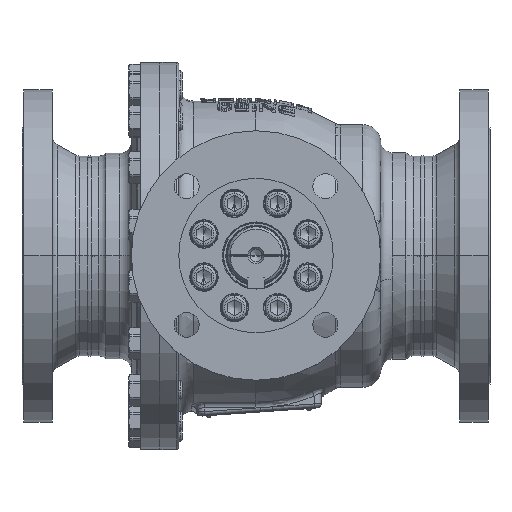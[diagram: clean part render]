
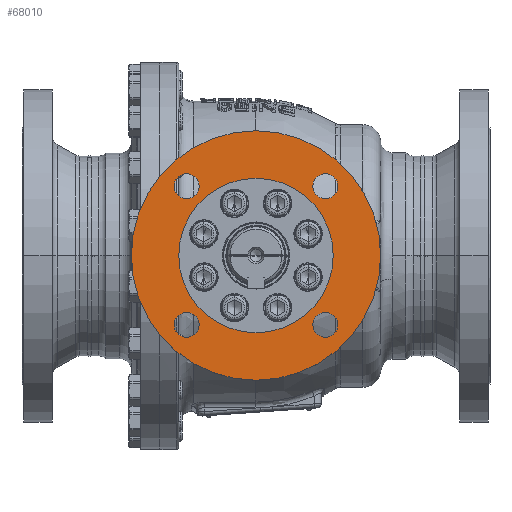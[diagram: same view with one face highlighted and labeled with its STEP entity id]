
A CAD part, top view. The second image highlights one B-rep face of the part: STEP entity #68010.
In plain terms, the highlighted planar face has unit normal (0, 0, 1).
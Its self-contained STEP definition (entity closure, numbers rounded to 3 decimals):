
#1173=CARTESIAN_POINT('',(0.,0.,233.));
#1174=DIRECTION('',(0.,0.,1.));
#1175=DIRECTION('',(1.,0.,0.));
#1176=AXIS2_PLACEMENT_3D('',#1173,#1174,#1175);
#1182=CARTESIAN_POINT('',(0.,0.,233.));
#1183=DIRECTION('',(0.,0.,-1.));
#1184=DIRECTION('',(1.,0.,0.));
#1185=AXIS2_PLACEMENT_3D('',#1182,#1183,#1184);
#1191=CARTESIAN_POINT('',(0.,0.,233.));
#1192=DIRECTION('',(0.,0.,1.));
#1193=DIRECTION('',(1.,0.,0.));
#1194=AXIS2_PLACEMENT_3D('',#1191,#1192,#1193);
#1196=CARTESIAN_POINT('',(0.,0.,233.));
#1197=DIRECTION('',(0.,0.,-1.));
#1198=DIRECTION('',(1.,0.,0.));
#1199=AXIS2_PLACEMENT_3D('',#1196,#1197,#1198);
#1201=CARTESIAN_POINT('',(58.336,-58.336,233.));
#1202=DIRECTION('',(0.,0.,-1.));
#1203=DIRECTION('',(-1.,0.,0.));
#1204=AXIS2_PLACEMENT_3D('',#1201,#1202,#1203);
#1206=CARTESIAN_POINT('',(58.336,-58.336,233.));
#1207=DIRECTION('',(0.,0.,-1.));
#1208=DIRECTION('',(1.,0.,0.));
#1209=AXIS2_PLACEMENT_3D('',#1206,#1207,#1208);
#1211=CARTESIAN_POINT('',(-58.336,-58.336,233.));
#1212=DIRECTION('',(0.,0.,-1.));
#1213=DIRECTION('',(0.,1.,0.));
#1214=AXIS2_PLACEMENT_3D('',#1211,#1212,#1213);
#1216=CARTESIAN_POINT('',(-58.336,-58.336,233.));
#1217=DIRECTION('',(0.,0.,-1.));
#1218=DIRECTION('',(0.,-1.,0.));
#1219=AXIS2_PLACEMENT_3D('',#1216,#1217,#1218);
#1221=CARTESIAN_POINT('',(-58.336,58.336,233.));
#1222=DIRECTION('',(0.,0.,-1.));
#1223=DIRECTION('',(1.,0.,0.));
#1224=AXIS2_PLACEMENT_3D('',#1221,#1222,#1223);
#1226=CARTESIAN_POINT('',(-58.336,58.336,233.));
#1227=DIRECTION('',(0.,0.,-1.));
#1228=DIRECTION('',(-1.,0.,0.));
#1229=AXIS2_PLACEMENT_3D('',#1226,#1227,#1228);
#1231=CARTESIAN_POINT('',(58.336,58.336,233.));
#1232=DIRECTION('',(0.,0.,-1.));
#1233=DIRECTION('',(0.,-1.,0.));
#1234=AXIS2_PLACEMENT_3D('',#1231,#1232,#1233);
#1236=CARTESIAN_POINT('',(58.336,58.336,233.));
#1237=DIRECTION('',(0.,0.,-1.));
#1238=DIRECTION('',(0.,1.,0.));
#1239=AXIS2_PLACEMENT_3D('',#1236,#1237,#1238);
#60430=CARTESIAN_POINT('',(65.,0.,233.));
#60432=VERTEX_POINT('',#60430);
#60434=CARTESIAN_POINT('',(-65.,0.,233.));
#60436=VERTEX_POINT('',#60434);
#60438=CARTESIAN_POINT('',(105.,0.,233.));
#60439=CARTESIAN_POINT('',(-105.,0.,233.));
#60440=VERTEX_POINT('',#60438);
#60441=VERTEX_POINT('',#60439);
#60494=CARTESIAN_POINT('',(47.836,-58.336,233.));
#60495=CARTESIAN_POINT('',(68.836,-58.336,233.));
#60496=VERTEX_POINT('',#60494);
#60497=VERTEX_POINT('',#60495);
#60498=CARTESIAN_POINT('',(-58.336,-47.836,233.));
#60499=CARTESIAN_POINT('',(-58.336,-68.836,233.));
#60500=VERTEX_POINT('',#60498);
#60501=VERTEX_POINT('',#60499);
#60502=CARTESIAN_POINT('',(-47.836,58.336,233.));
#60503=CARTESIAN_POINT('',(-68.836,58.336,233.));
#60504=VERTEX_POINT('',#60502);
#60505=VERTEX_POINT('',#60503);
#60506=CARTESIAN_POINT('',(58.336,47.836,233.));
#60507=CARTESIAN_POINT('',(58.336,68.836,233.));
#60508=VERTEX_POINT('',#60506);
#60509=VERTEX_POINT('',#60507);
#67971=CARTESIAN_POINT('',(0.,0.,233.));
#67972=DIRECTION('',(0.,0.,1.));
#67973=DIRECTION('',(1.,0.,0.));
#67974=AXIS2_PLACEMENT_3D('',#67971,#67972,#67973);
#67975=PLANE('',#67974);
#67977=ORIENTED_EDGE('',*,*,#67976,.F.);
#67979=ORIENTED_EDGE('',*,*,#67978,.T.);
#67980=EDGE_LOOP('',(#67977,#67979));
#67981=FACE_OUTER_BOUND('',#67980,.F.);
#67982=ORIENTED_EDGE('',*,*,#67964,.F.);
#67983=ORIENTED_EDGE('',*,*,#67953,.T.);
#67984=EDGE_LOOP('',(#67982,#67983));
#67985=FACE_BOUND('',#67984,.F.);
#67987=ORIENTED_EDGE('',*,*,#67986,.F.);
#67989=ORIENTED_EDGE('',*,*,#67988,.F.);
#67990=EDGE_LOOP('',(#67987,#67989));
#67991=FACE_BOUND('',#67990,.F.);
#67993=ORIENTED_EDGE('',*,*,#67992,.F.);
#67995=ORIENTED_EDGE('',*,*,#67994,.F.);
#67996=EDGE_LOOP('',(#67993,#67995));
#67997=FACE_BOUND('',#67996,.F.);
#67999=ORIENTED_EDGE('',*,*,#67998,.F.);
#68001=ORIENTED_EDGE('',*,*,#68000,.F.);
#68002=EDGE_LOOP('',(#67999,#68001));
#68003=FACE_BOUND('',#68002,.F.);
#68005=ORIENTED_EDGE('',*,*,#68004,.F.);
#68007=ORIENTED_EDGE('',*,*,#68006,.F.);
#68008=EDGE_LOOP('',(#68005,#68007));
#68009=FACE_BOUND('',#68008,.F.);
#68010=ADVANCED_FACE('',(#67981,#67985,#67991,#67997,#68003,#68009),#67975,.T.);
#1177=CIRCLE('',#1176,65.);
#1186=CIRCLE('',#1185,65.);
#1195=CIRCLE('',#1194,105.);
#1200=CIRCLE('',#1199,105.);
#1205=CIRCLE('',#1204,10.5);
#1210=CIRCLE('',#1209,10.5);
#1215=CIRCLE('',#1214,10.5);
#1220=CIRCLE('',#1219,10.5);
#1225=CIRCLE('',#1224,10.5);
#1230=CIRCLE('',#1229,10.5);
#1235=CIRCLE('',#1234,10.5);
#1240=CIRCLE('',#1239,10.5);
#67953=EDGE_CURVE('',#60432,#60436,#1177,.T.);
#67964=EDGE_CURVE('',#60432,#60436,#1186,.T.);
#67976=EDGE_CURVE('',#60440,#60441,#1195,.T.);
#67978=EDGE_CURVE('',#60440,#60441,#1200,.T.);
#67986=EDGE_CURVE('',#60496,#60497,#1205,.T.);
#67988=EDGE_CURVE('',#60497,#60496,#1210,.T.);
#67992=EDGE_CURVE('',#60500,#60501,#1215,.T.);
#67994=EDGE_CURVE('',#60501,#60500,#1220,.T.);
#67998=EDGE_CURVE('',#60504,#60505,#1225,.T.);
#68000=EDGE_CURVE('',#60505,#60504,#1230,.T.);
#68004=EDGE_CURVE('',#60508,#60509,#1235,.T.);
#68006=EDGE_CURVE('',#60509,#60508,#1240,.T.);
